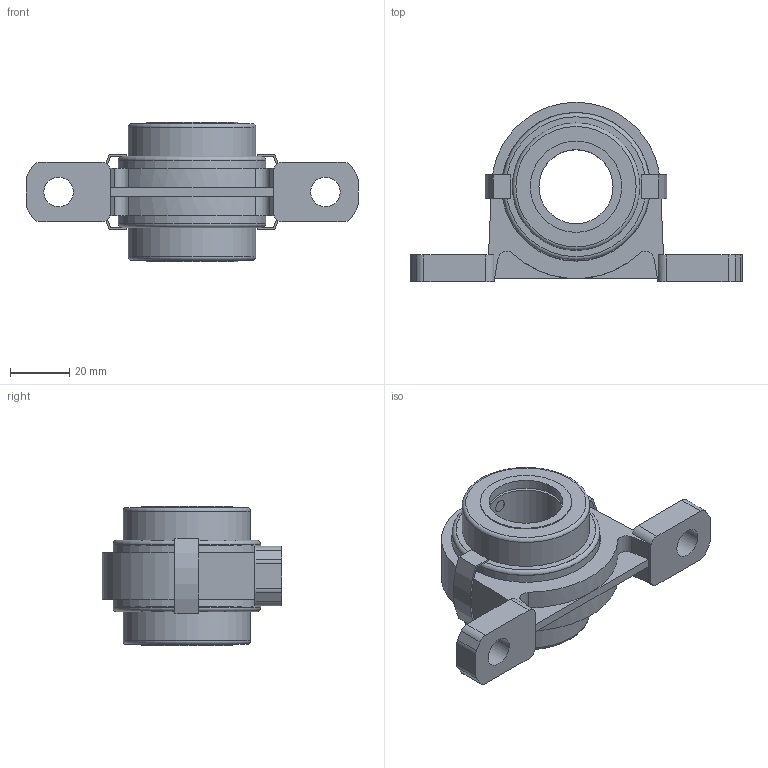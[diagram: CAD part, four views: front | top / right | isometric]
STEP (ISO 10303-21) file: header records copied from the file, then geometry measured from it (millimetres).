
FILE_DESCRIPTION((''),'2;1');
FILE_NAME('\\Ts-tgl068\j-cad-d-base\00.3DCADデータ作成フォルダ\11.エコシリーズ\MUSP000\MUSP005C.stp','2014-11-12T09:22:26',('btec_1106_2'),(''),'Autodesk Inventor 2012','Autodesk Inventor 2012','');
FILE_SCHEMA(('AUTOMOTIVE_DESIGN { 1 0 10303 214 1 1 1 1 }'));
Length unit declared in the file: millimetre
Products named in the file (5): MUSP000C; SP005; U005; 05-6CP25; 5CLP
Assembly tree (6 placements, depth 2):
  MUSP000C
    SP005
    U005
    05-6CP25  x2
    5CLP  x2
Bounding box: 112 x 60.5 x 47 mm (x, y, z)
Volume: 51586.3 mm3; surface area: 37449.7 mm2
Topology: 6 solids, 6 shells, 136 faces, 311 edges, 202 vertices
Faces by surface type: plane 74, cylinder 49, torus 8, cone 3, sphere 2
Full cylindrical faces by diameter (mm): 3.5 x1, 10 x2, 25 x3, 30.8 x4, 31.7 x1, 36 x1, 42.4 x2, 43 x2, 49.2 x2, 49.8 x2, 50.2 x2
Entity records: 3239 total; most frequent: CARTESIAN_POINT 639, DIRECTION 546, ORIENTED_EDGE 448, EDGE_CURVE 224, AXIS2_PLACEMENT_3D 210, VERTEX_POINT 160, EDGE_LOOP 156, VECTOR 126
